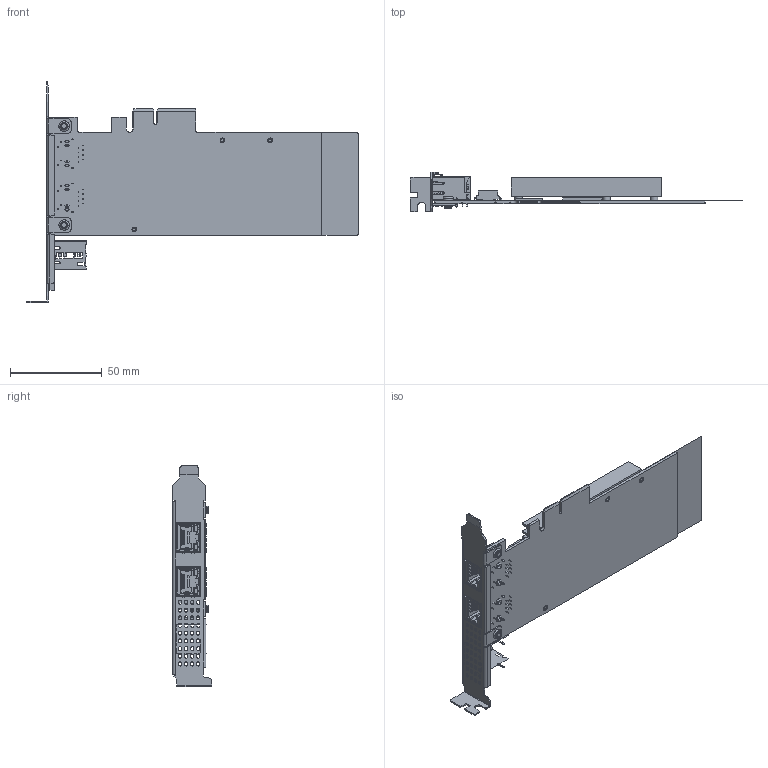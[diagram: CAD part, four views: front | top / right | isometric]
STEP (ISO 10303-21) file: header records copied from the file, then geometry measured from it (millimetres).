
FILE_DESCRIPTION((''),'2;1');
FILE_NAME('DE-20-051857_ASM','2026-05-09T13:50:56',('wuxin28'),(''),'CREO PARAMETRIC BY PTC INC, 2020044','CREO PARAMETRIC BY PTC INC, 2020044','');
FILE_SCHEMA(('CONFIG_CONTROL_DESIGN'));
Products named in the file (12): DE-11-047829; PCB-MV-GT2102BG-DB; 101306305; 100500418; 101107347; 101116183; ST-D4X2_4-D3_1X1_6-F2X4-CU; PCB-MV-GT2102BG-ZJ_ASM; SC-P0M3X4-GB818; SC-PM2X4_5NL-B; DE-15-008325; DE-20-051857_ASM
Assembly tree (18 placements, depth 3):
  DE-20-051857_ASM
    DE-11-047829
    PCB-MV-GT2102BG-ZJ_ASM
      PCB-MV-GT2102BG-DB
      101306305  x2
      100500418  x2
      101107347
      101116183  x2
      ST-D4X2_4-D3_1X1_6-F2X4-CU  x3
    SC-P0M3X4-GB818  x2
    SC-PM2X4_5NL-B  x2
    DE-15-008325
Bounding box: 180.91 x 21.59 x 120.82 mm (x, y, z)
Volume: 40758.9 mm3; surface area: 82956.8 mm2
Topology: 53 solids, 85 shells, 6548 faces, 18410 edges, 12027 vertices
Faces by surface type: plane 4671, cylinder 1599, bspline 210, cone 44, torus 24
Entity records: 116999 total; most frequent: CARTESIAN_POINT 25380, ORIENTED_EDGE 19476, DIRECTION 18176, EDGE_CURVE 9914, VECTOR 7772, LINE 7772, VERTEX_POINT 6521, AXIS2_PLACEMENT_3D 5202
